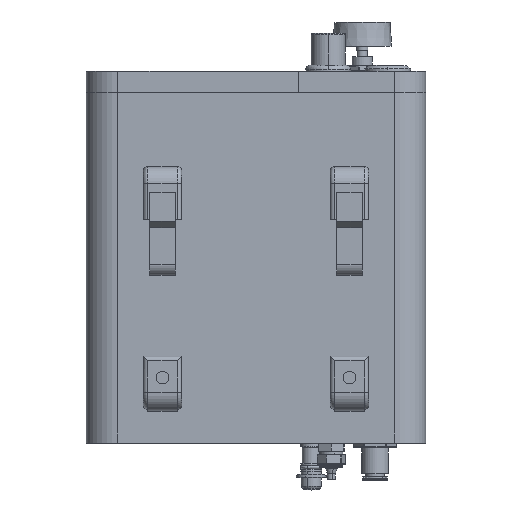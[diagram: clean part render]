
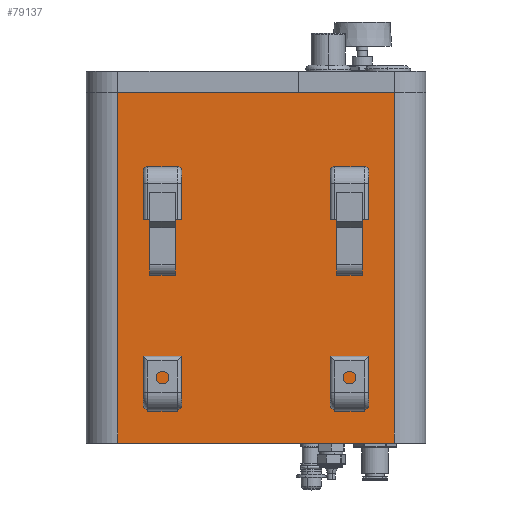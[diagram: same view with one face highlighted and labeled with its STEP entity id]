
A CAD part, top view. The second image highlights one B-rep face of the part: STEP entity #79137.
In plain terms, the highlighted planar face has unit normal (0, 0, 1).
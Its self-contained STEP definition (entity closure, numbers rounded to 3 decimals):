
#12045 = CARTESIAN_POINT ( 'NONE',  ( -145., 0., 0. ) ) ;
#12658 = LINE ( 'NONE', #37466, #110340 ) ;
#18808 = DIRECTION ( 'NONE',  ( 0., -1., 0. ) ) ;
#27020 = PLANE ( 'NONE',  #53096 ) ;
#28754 = LINE ( 'NONE', #63109, #84961 ) ;
#29246 = CARTESIAN_POINT ( 'NONE',  ( -15., 165., 0. ) ) ;
#30659 = ORIENTED_EDGE ( 'NONE', *, *, #102900, .F. ) ;
#34871 = EDGE_CURVE ( 'NONE', #65945, #93272, #77433, .T. ) ;
#35468 = DIRECTION ( 'NONE',  ( 0., 0., -1. ) ) ;
#37466 = CARTESIAN_POINT ( 'NONE',  ( -15., 0., 0. ) ) ;
#39656 = DIRECTION ( 'NONE',  ( 1., 0., 0. ) ) ;
#45157 = EDGE_CURVE ( 'NONE', #65546, #93272, #12658, .T. ) ;
#49437 = CARTESIAN_POINT ( 'NONE',  ( -15., 165., 0. ) ) ;
#50410 = ORIENTED_EDGE ( 'NONE', *, *, #98052, .T. ) ;
#53096 = AXIS2_PLACEMENT_3D ( 'NONE', #29246, #35468, #71528 ) ;
#57236 = ORIENTED_EDGE ( 'NONE', *, *, #34871, .F. ) ;
#63109 = CARTESIAN_POINT ( 'NONE',  ( -145., 165., 0. ) ) ;
#63678 = DIRECTION ( 'NONE',  ( 0., -1., 0. ) ) ;
#65546 = VERTEX_POINT ( 'NONE', #12045 ) ;
#65863 = VECTOR ( 'NONE', #18808, 1000. ) ;
#65945 = VERTEX_POINT ( 'NONE', #111234 ) ;
#70411 = FACE_OUTER_BOUND ( 'NONE', #82535, .T. ) ;
#71528 = DIRECTION ( 'NONE',  ( -1., 0., 0. ) ) ;
#77433 = LINE ( 'NONE', #79104, #65863 ) ;
#79104 = CARTESIAN_POINT ( 'NONE',  ( -15., 165., 0. ) ) ;
#79137 = ADVANCED_FACE ( 'NONE', ( #70411 ), #27020, .F. ) ;
#80083 = VERTEX_POINT ( 'NONE', #80710 ) ;
#80710 = CARTESIAN_POINT ( 'NONE',  ( -145., 165., 0. ) ) ;
#81679 = CARTESIAN_POINT ( 'NONE',  ( -15., 0., 0. ) ) ;
#82535 = EDGE_LOOP ( 'NONE', ( #99455, #57236, #30659, #50410 ) ) ;
#84961 = VECTOR ( 'NONE', #63678, 1000. ) ;
#90742 = VECTOR ( 'NONE', #101931, 1000. ) ;
#93272 = VERTEX_POINT ( 'NONE', #81679 ) ;
#93451 = LINE ( 'NONE', #49437, #90742 ) ;
#98052 = EDGE_CURVE ( 'NONE', #80083, #65546, #28754, .T. ) ;
#99455 = ORIENTED_EDGE ( 'NONE', *, *, #45157, .T. ) ;
#101931 = DIRECTION ( 'NONE',  ( 1., 0., 0. ) ) ;
#102900 = EDGE_CURVE ( 'NONE', #80083, #65945, #93451, .T. ) ;
#110340 = VECTOR ( 'NONE', #39656, 1000. ) ;
#111234 = CARTESIAN_POINT ( 'NONE',  ( -15., 165., 0. ) ) ;
